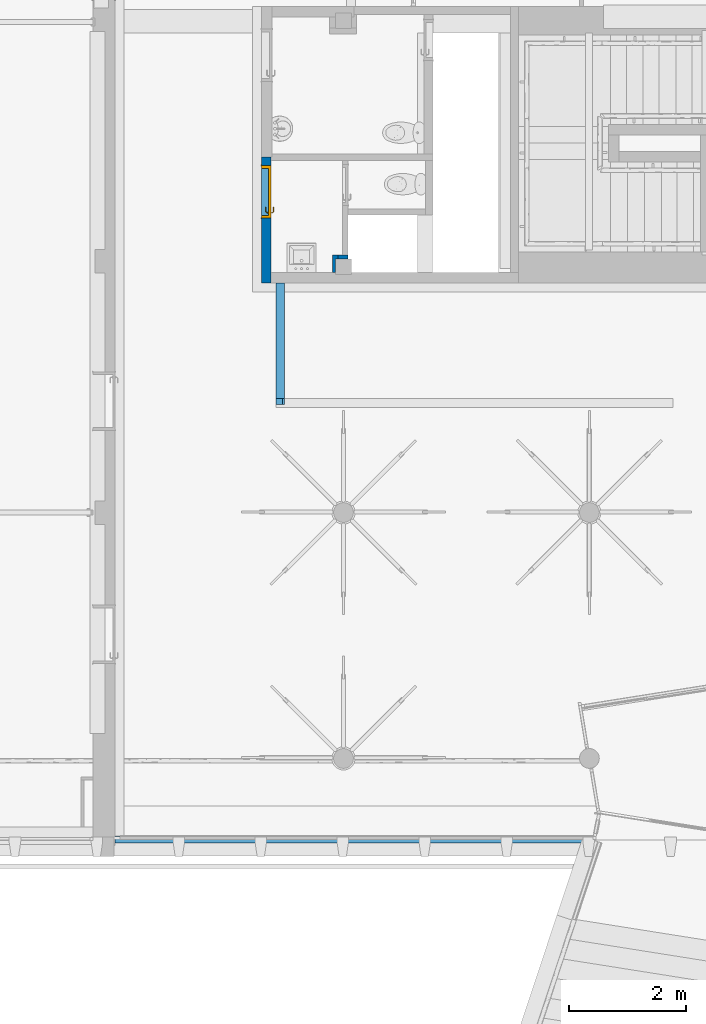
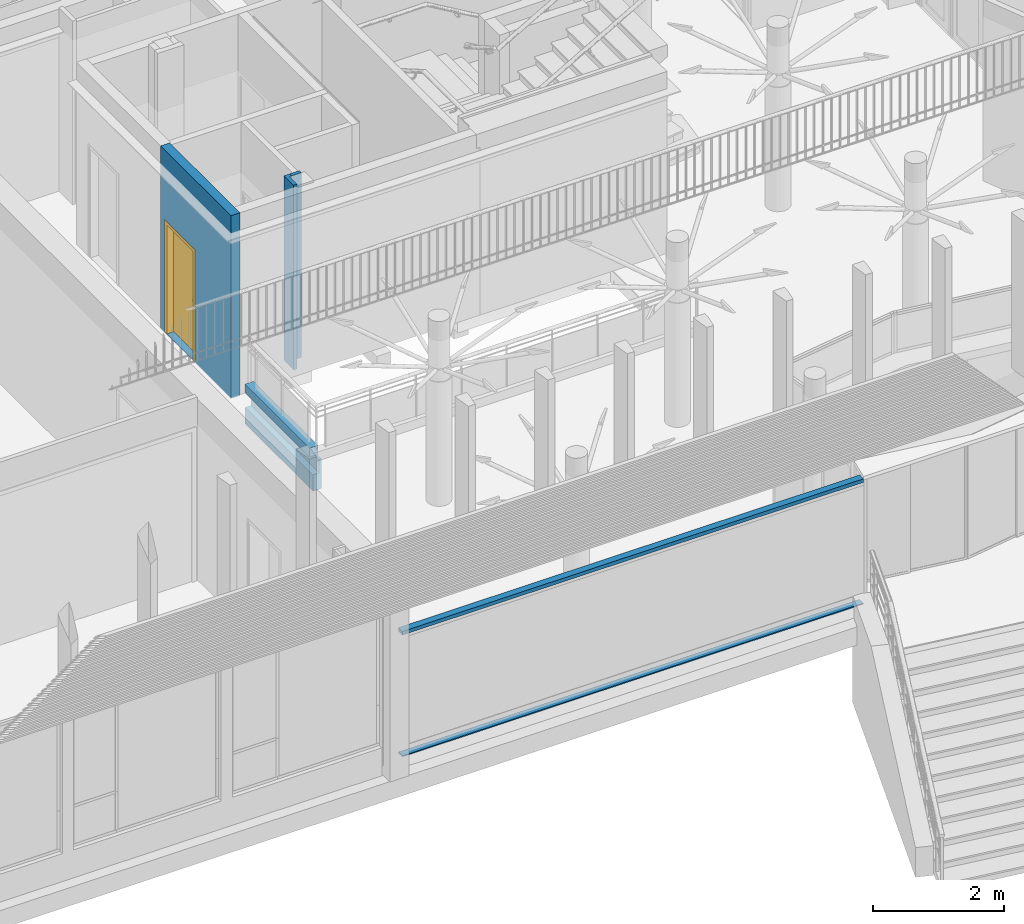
# One storey, part 34 of 65: 5 walls, 1 door, 4 openings.
"""IFC4 building model written with IfcOpenShell, lengths in metres."""

from ifc_helpers import new_model, entity, si_unit, converted_unit, derived_unit, direction, frame, origin, place, context, subcontext, project, spatial, indexed_curve, outline, extrude, polygons, source, transform, mapped, material, material_list, layer, layer_set, constituent, constituent_set, type_object, type_shapes, element, fill, save


model = new_model("IFC4")

# Units and contexts
model_context = context("Model", 3, precision=1e-05, world=origin(), true_north=direction((6.12303176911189e-17, 1.0)))
body_context = subcontext(model_context, "Body", "Model", "MODEL_VIEW")
ifc_project = project(units=[si_unit("LENGTHUNIT", "METRE"), si_unit("AREAUNIT", "SQUARE_METRE"), si_unit("VOLUMEUNIT", "CUBIC_METRE"), converted_unit("PLANEANGLEUNIT", "DEGREE", entity("IfcRatioMeasure", 0.0174532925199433), si_unit("PLANEANGLEUNIT", "RADIAN"), dimensions=[0, 0, 0, 0, 0, 0, 0]), si_unit("MASSUNIT", "GRAM", prefix="KILO"), derived_unit("MASSDENSITYUNIT", [(si_unit("MASSUNIT", "GRAM", prefix="KILO"), 1), (si_unit("LENGTHUNIT", "METRE"), -3)]), derived_unit("MOMENTOFINERTIAUNIT", [(si_unit("LENGTHUNIT", "METRE"), 4)]), si_unit("TIMEUNIT", "SECOND"), si_unit("FREQUENCYUNIT", "HERTZ"), si_unit("THERMODYNAMICTEMPERATUREUNIT", "DEGREE_CELSIUS"), derived_unit("THERMALTRANSMITTANCEUNIT", [(si_unit("MASSUNIT", "GRAM", prefix="KILO"), 1), (si_unit("THERMODYNAMICTEMPERATUREUNIT", "KELVIN"), -1), (si_unit("TIMEUNIT", "SECOND"), -3)]), derived_unit("VOLUMETRICFLOWRATEUNIT", [(si_unit("LENGTHUNIT", "METRE"), 3), (si_unit("TIMEUNIT", "SECOND"), -1)]), si_unit("ELECTRICCURRENTUNIT", "AMPERE"), si_unit("ELECTRICVOLTAGEUNIT", "VOLT"), si_unit("POWERUNIT", "WATT"), si_unit("FORCEUNIT", "NEWTON", prefix="KILO"), si_unit("ILLUMINANCEUNIT", "LUX"), si_unit("LUMINOUSFLUXUNIT", "LUMEN"), si_unit("LUMINOUSINTENSITYUNIT", "CANDELA"), derived_unit("USERDEFINED", [(si_unit("MASSUNIT", "GRAM", prefix="KILO"), -1), (si_unit("LENGTHUNIT", "METRE"), -2), (si_unit("TIMEUNIT", "SECOND"), 3), (si_unit("LUMINOUSFLUXUNIT", "LUMEN"), 1)]), derived_unit("LINEARVELOCITYUNIT", [(si_unit("LENGTHUNIT", "METRE"), 1), (si_unit("TIMEUNIT", "SECOND"), -1)]), si_unit("PRESSUREUNIT", "PASCAL"), derived_unit("USERDEFINED", [(si_unit("LENGTHUNIT", "METRE"), -2), (si_unit("MASSUNIT", "GRAM", prefix="KILO"), 1), (si_unit("TIMEUNIT", "SECOND"), -2)]), derived_unit("LINEARFORCEUNIT", [(si_unit("MASSUNIT", "GRAM", prefix="KILO"), 1), (si_unit("LENGTHUNIT", "METRE"), 1), (si_unit("TIMEUNIT", "SECOND"), -2), (si_unit("LENGTHUNIT", "METRE"), -1)]), derived_unit("PLANARFORCEUNIT", [(si_unit("MASSUNIT", "GRAM", prefix="KILO"), 1), (si_unit("LENGTHUNIT", "METRE"), 1), (si_unit("TIMEUNIT", "SECOND"), -2), (si_unit("LENGTHUNIT", "METRE"), -2)])], contexts=[model_context])

# Site, building, storey
site_placement = place(None, origin())
site = spatial("IfcSite", under=ifc_project, at=site_placement, Name="Default", CompositionType="ELEMENT")
building_placement = place(site_placement, origin())
building = spatial("IfcBuilding", under=site, at=building_placement, Name="HOTEL CONSULAIRE BOULOGNE SUR MER", CompositionType="ELEMENT")
storey_placement = place(building_placement, origin())
storey = spatial("IfcBuildingStorey", under=building, at=storey_placement, Name="Niveau 0", CompositionType="ELEMENT", Elevation=1.31981936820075e-13)

# Wall, opening, door
ifc_material_1 = material(Name="Mur par défaut", Category="Divers")
ifc_layer_1 = layer(ifc_material_1, 0.16, Name="Mur par défaut", Category="Divers")
ifc_layer_set_1 = layer_set([ifc_layer_1], Name="Mur de base:Générique - Int.160")
wall_type_1 = type_object("IfcWallType", Name="Mur de base:Générique - Int.160", PredefinedType="NOTDEFINED", material=ifc_layer_set_1)
wall_1_placement = place(storey_placement, frame((-2.54935158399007, -20.0949143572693, -0.0200000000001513), z_axis=(0.0, 0.0, 1.0), x_axis=(0.0, 1.0, 0.0)))
wall_1 = element("IfcWall", 1, at=wall_1_placement, inside=storey, type_object=wall_type_1, material=ifc_layer_set_1, Name="Mur de base:Générique - Int.160", ObjectType="Mur de base:Générique - Int.160", PredefinedType="NOTDEFINED", context=body_context, shape_type="Tessellation", body=[
    polygons([(0.0, -0.0799999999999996, -2.15727435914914e-16), (2.09235410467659, -0.0799999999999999, -2.15727435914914e-16), (2.14985410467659, -0.0799999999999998, -2.15727435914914e-16), (2.14985410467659, -0.0799999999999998, 3.40652697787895), (0.0, -0.0799999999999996, 3.40652697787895), (0.0, -0.0799999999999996, 0.0199999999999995), (2.00685410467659, -0.0799999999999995, 2.095), (2.00685410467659, -0.0799999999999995, 0.0199999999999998), (1.10685410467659, -0.0799999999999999, 0.0199999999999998), (1.10685410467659, -0.0799999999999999, 2.095), (2.14985410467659, 0.0800000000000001, -2.15727435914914e-16), (0.0, 0.0800000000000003, -2.15727435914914e-16), (0.0, 0.0800000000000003, 3.40652697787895), (2.14985410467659, 0.0800000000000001, 3.40652697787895), (2.00685410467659, 0.0800000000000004, 0.0199999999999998), (2.00685410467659, 0.0800000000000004, 2.095), (1.10685410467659, 0.08, 2.095), (1.10685410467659, 0.08, 0.0199999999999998)], [[[6, 1, 2, 3, 4, 5], [9, 10, 7, 8]], [[11, 12, 13, 14], [16, 17, 18, 15]], [[2, 1, 12, 11, 3]], [[16, 7, 10, 17]], [[4, 3, 11, 14]], [[17, 10, 9, 18]], [[13, 12, 1, 6, 5]], [[15, 8, 7, 16]], [[15, 18, 9, 8]], [[13, 5, 4, 14]]], closed=True),
])
opening_1_placement = place(wall_1_placement, frame((2.00685410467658, 0.0799999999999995, 0.0200000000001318)))
opening_1 = element("IfcOpeningElement", 2, at=opening_1_placement, cuts=wall_1, Name="Int. Simple:PP (0.83m x 2.04m):1", ObjectType="Opening", PredefinedType="OPENING", context=body_context, shape_type="SweptSolid", body=[
    extrude(outline(indexed_curve([(0.0, 1.08286712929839e-15), (2.075, 1.08286712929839e-15), (2.075, 0.9), (0.0, 0.9), (0.0, 1.08286712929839e-15)], self_intersect=False)), frame((0.0, 0.0, 0.0), z_axis=(0.0, -1.0, 0.0), x_axis=(0.0, 0.0, 1.0)), (0.0, 0.0, 1.0), 0.16),
])
ifc_material_2 = material(Name="Finition Peinture - Blanc satiné", Category="Peinture")
ifc_constituent_1 = constituent(ifc_material_2, Name="Finition Peinture - Blanc satiné", Category="Matériaux")
ifc_material_3 = material(Name="Bois - Panneau de porte", Category="Bois")
ifc_constituent_2 = constituent(ifc_material_3, Name="Bois - Panneau de porte", Category="Matériaux")
ifc_material_4 = material(Name="Bois - Cadre de porte", Category="Bois")
ifc_constituent_3 = constituent(ifc_material_4, Name="Bois - Cadre de porte", Category="Matériaux")
ifc_constituent_set = constituent_set(constituents=[ifc_constituent_1, ifc_constituent_2, ifc_constituent_3], Name="MaterialConstituentSet")
ifc_material_list = material_list([ifc_material_4, ifc_material_3, ifc_material_2, ifc_material_4])
door_type = type_object("IfcDoorType", Name="Int. Simple:PP (0.83m x 2.04m)", OperationType="NOTDEFINED", PredefinedType="DOOR", material=ifc_material_list)
shared_shape = source(origin(), body_context, "Body", "Tessellation", [
    polygons([(0.0750000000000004, -0.00500000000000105, 0.870000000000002), (0.0846472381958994, -0.00500000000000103, 0.866003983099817), (0.0950000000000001, -0.00500000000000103, 0.86464101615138), (0.105352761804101, -0.00500000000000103, 0.866003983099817), (0.115, -0.00500000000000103, 0.870000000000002), (0.114999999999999, -0.00500000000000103, 1.08), (0.1053527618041, -0.00500000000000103, 1.08399601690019), (0.094999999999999, -0.00500000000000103, 1.08535898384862), (0.0846472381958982, -0.00500000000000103, 1.08399601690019), (0.0749999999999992, -0.00500000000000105, 1.08), (0.0749999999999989, -1.06594733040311e-15, 0.870000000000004), (0.0749999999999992, -1.06594733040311e-15, 1.08), (0.0846472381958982, -1.04902753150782e-15, 1.08399601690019), (0.094999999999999, -1.04902753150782e-15, 1.08535898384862), (0.1053527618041, -1.04902753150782e-15, 1.08399601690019), (0.114999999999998, -1.04902753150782e-15, 1.08), (0.115, -1.04902753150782e-15, 0.870000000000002), (0.105352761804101, -1.04902753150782e-15, 0.866003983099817), (0.0950000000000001, -1.04902753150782e-15, 0.86464101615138), (0.0846472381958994, -1.04902753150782e-15, 0.866003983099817)], [[[4, 5, 6, 7, 8, 9, 10, 1, 2, 3]], [[15, 16, 17, 18, 19, 20, 11, 12, 13, 14]], [[11, 20, 2, 1]], [[2, 20, 19, 3]], [[19, 18, 4, 3]], [[18, 17, 5, 4]], [[6, 5, 17, 16]], [[16, 15, 7, 6]], [[7, 15, 14, 8]], [[14, 13, 9, 8]], [[13, 12, 10, 9]], [[1, 10, 12, 11]]], closed=True),
    polygons([(0.114999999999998, 0.0399999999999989, 1.08), (0.105352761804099, 0.0399999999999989, 1.08399601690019), (0.0949999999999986, 0.0399999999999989, 1.08535898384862), (0.084647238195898, 0.0399999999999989, 1.08399601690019), (0.0749999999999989, 0.0399999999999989, 1.08), (0.0750000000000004, 0.0399999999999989, 0.870000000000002), (0.0846472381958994, 0.0399999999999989, 0.866003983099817), (0.0950000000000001, 0.0399999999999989, 0.86464101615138), (0.105352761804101, 0.0399999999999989, 0.866003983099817), (0.115, 0.0399999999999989, 0.870000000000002), (0.114999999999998, 0.044999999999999, 1.08), (0.115, 0.044999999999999, 0.870000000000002), (0.105352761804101, 0.0449999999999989, 0.866003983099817), (0.0950000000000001, 0.0449999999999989, 0.86464101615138), (0.0846472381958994, 0.0449999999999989, 0.866003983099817), (0.0749999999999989, 0.0449999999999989, 0.870000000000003), (0.0749999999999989, 0.0449999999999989, 1.08), (0.084647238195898, 0.0449999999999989, 1.08399601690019), (0.0949999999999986, 0.0449999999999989, 1.08535898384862), (0.105352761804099, 0.0449999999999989, 1.08399601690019)], [[[9, 10, 1, 2, 3, 4, 5, 6, 7, 8]], [[20, 11, 12, 13, 14, 15, 16, 17, 18, 19]], [[11, 20, 2, 1]], [[2, 20, 19, 3]], [[19, 18, 4, 3]], [[18, 17, 5, 4]], [[6, 5, 17, 16]], [[16, 15, 7, 6]], [[7, 15, 14, 8]], [[14, 13, 9, 8]], [[13, 12, 10, 9]], [[1, 10, 12, 11]]], closed=True),
    polygons([(0.0889999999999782, -0.00500000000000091, 1.007), (0.0929747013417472, -0.00500000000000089, 1.00778044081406), (0.0970252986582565, -0.00500000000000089, 1.00778044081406), (0.101000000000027, -0.00500000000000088, 1.00699999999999), (0.101000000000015, -0.00500000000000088, 0.993000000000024), (0.0970252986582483, -0.00500000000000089, 0.992219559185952), (0.0929747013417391, -0.00500000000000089, 0.99221955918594), (0.0889999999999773, -0.00500000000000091, 0.992999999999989), (0.0889999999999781, -0.0326509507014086, 1.007), (0.092974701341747, -0.0310045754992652, 1.00778044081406), (0.0970252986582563, -0.0293267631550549, 1.00778044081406), (0.101000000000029, -0.0276803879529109, 1.007), (0.101000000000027, -0.0276803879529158, 0.993000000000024), (0.0970252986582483, -0.0293267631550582, 0.992219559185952), (0.0929747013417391, -0.0310045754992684, 0.99221955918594), (0.0889999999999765, -0.0326509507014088, 0.992999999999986), (0.107377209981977, -0.051028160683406, 1.007), (0.10902358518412, -0.0470534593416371, 1.00778044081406), (0.110701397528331, -0.0430028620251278, 1.00778044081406), (0.112347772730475, -0.0390281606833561, 1.007), (0.112347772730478, -0.0390281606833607, 0.993000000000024), (0.110701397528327, -0.0430028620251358, 0.992219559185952), (0.109023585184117, -0.0470534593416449, 0.99221955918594), (0.107377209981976, -0.0510281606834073, 0.992999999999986), (0.195018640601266, -0.0510281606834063, 1.00699999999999), (0.195018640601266, -0.051028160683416, 0.992999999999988), (0.195018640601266, -0.0470534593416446, 0.99221955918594), (0.195018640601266, -0.0430028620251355, 0.992219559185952), (0.195018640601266, -0.0390281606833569, 0.993000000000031), (0.195018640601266, -0.0390281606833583, 1.007), (0.195018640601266, -0.0430028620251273, 1.00778044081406), (0.195018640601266, -0.0470534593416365, 1.00778044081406), (0.147307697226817, -0.0510281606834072, 1.007), (0.152860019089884, -0.045028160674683, 1.0078786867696), (0.15368320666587, -0.039028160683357, 1.007), (0.147307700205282, -0.0510281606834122, 0.992999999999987), (0.152860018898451, -0.0450281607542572, 0.992121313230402), (0.153683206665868, -0.0390281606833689, 0.993000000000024)], [[[2, 3, 4, 5, 6, 7, 8, 1]], [[21, 20, 35, 30, 29, 38]], [[9, 10, 2, 1]], [[10, 18, 19, 11, 3, 2]], [[11, 12, 4, 3]], [[5, 4, 12, 13]], [[26, 27, 28, 29, 30, 31, 32, 25]], [[13, 14, 6, 5]], [[14, 22, 23, 15, 7, 6]], [[15, 16, 8, 7]], [[1, 8, 16, 9]], [[17, 18, 10, 9]], [[19, 20, 12, 11]], [[13, 12, 20, 21]], [[21, 22, 14, 13]], [[23, 24, 16, 15]], [[9, 16, 24, 17]], [[33, 32, 34]], [[25, 32, 33]], [[18, 17, 33]], [[34, 35, 19]], [[20, 19, 35]], [[35, 31, 30]], [[32, 31, 34]], [[31, 35, 34]], [[18, 33, 34]], [[18, 34, 19]], [[38, 28, 37]], [[36, 37, 27]], [[21, 38, 22]], [[38, 29, 28]], [[26, 36, 27]], [[24, 23, 36]], [[36, 23, 37]], [[23, 22, 37]], [[22, 38, 37]], [[27, 37, 28]], [[17, 24, 36, 26, 25, 33]]], closed=True),
    polygons([(0.10100000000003, 0.0449999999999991, 0.993000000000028), (0.101000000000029, 0.0449999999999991, 1.007), (0.0970252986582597, 0.0449999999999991, 1.00778044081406), (0.0929747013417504, 0.0449999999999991, 1.00778044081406), (0.0889999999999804, 0.0449999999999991, 1.007), (0.0889999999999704, 0.0449999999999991, 0.992999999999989), (0.0929747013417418, 0.0449999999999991, 0.99221955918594), (0.0970252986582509, 0.0449999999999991, 0.992219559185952), (0.10100000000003, 0.067485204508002, 0.993000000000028), (0.10100000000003, 0.0674852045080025, 1.007), (0.0970252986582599, 0.0691315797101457, 1.00778044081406), (0.0929747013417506, 0.070809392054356, 1.00778044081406), (0.0889999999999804, 0.0724557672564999, 1.007), (0.0889999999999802, 0.0724557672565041, 0.992999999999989), (0.0929747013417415, 0.0708093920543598, 0.99221955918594), (0.0970252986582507, 0.0691315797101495, 0.992219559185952), (0.112485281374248, 0.0789704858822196, 0.993000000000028), (0.112485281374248, 0.0789704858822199, 1.007), (0.110838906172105, 0.0829451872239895, 1.00778044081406), (0.109161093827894, 0.0869957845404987, 1.00778044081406), (0.107514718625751, 0.090970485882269, 1.007), (0.107514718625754, 0.090970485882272, 0.992999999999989), (0.109161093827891, 0.0869957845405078, 0.99221955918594), (0.110838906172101, 0.0829451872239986, 0.992219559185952), (0.195045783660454, 0.0789704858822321, 0.993000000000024), (0.195045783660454, 0.0829451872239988, 0.992219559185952), (0.195045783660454, 0.086995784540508, 0.99221955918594), (0.195045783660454, 0.0909704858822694, 0.992999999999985), (0.195045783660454, 0.0909704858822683, 1.007), (0.195045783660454, 0.0869957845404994, 1.00778044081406), (0.195045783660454, 0.0829451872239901, 1.00778044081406), (0.195045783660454, 0.0789704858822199, 1.007), (0.147445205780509, 0.0909704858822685, 1.007), (0.152942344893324, 0.0849704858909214, 1.0078786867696), (0.153765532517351, 0.0789704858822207, 1.007), (0.147445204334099, 0.0909704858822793, 0.992999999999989), (0.152942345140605, 0.0849704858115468, 0.992121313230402), (0.153765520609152, 0.0789704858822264, 0.993000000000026)], [[[4, 5, 6, 7, 8, 1, 2, 3]], [[18, 17, 38, 25, 32, 35]], [[2, 1, 9, 10]], [[25, 26, 27, 28, 29, 30, 31, 32]], [[10, 11, 3, 2]], [[11, 19, 20, 12, 4, 3]], [[12, 13, 5, 4]], [[6, 5, 13, 14]], [[14, 15, 7, 6]], [[15, 23, 24, 16, 8, 7]], [[16, 9, 1, 8]], [[10, 9, 17, 18]], [[18, 19, 11, 10]], [[20, 21, 13, 12]], [[14, 13, 21, 22]], [[22, 23, 15, 14]], [[24, 17, 9, 16]], [[35, 31, 34]], [[33, 34, 30]], [[18, 35, 19]], [[35, 32, 31]], [[29, 33, 30]], [[21, 20, 33]], [[33, 20, 34]], [[20, 19, 34]], [[19, 35, 34]], [[30, 34, 31]], [[21, 33, 29, 28, 36, 22]], [[36, 27, 37]], [[28, 27, 36]], [[23, 22, 36]], [[37, 38, 24]], [[17, 24, 38]], [[38, 26, 25]], [[27, 26, 37]], [[26, 38, 37]], [[23, 36, 37]], [[23, 37, 24]]], closed=True),
    polygons([(0.034999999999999, 0.04, 2.04), (0.865, 0.04, 2.04), (0.864999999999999, 0.04, 0.0), (0.034999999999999, 0.04, 0.0), (0.034999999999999, 5.07593966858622e-17, 2.04), (0.034999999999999, 5.07593966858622e-17, 0.0), (0.864999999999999, 5.07593966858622e-17, 0.0), (0.865, 5.07593966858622e-17, 2.04)], [[[4, 1, 2, 3]], [[7, 8, 5, 6]], [[2, 1, 5, 8]], [[3, 2, 8, 7]], [[4, 3, 7, 6]], [[1, 4, 6, 5]]], closed=True),
    polygons([(-1.54308565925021e-14, 1.69197988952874e-17, 0.0), (-1.54308565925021e-14, 0.160000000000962, 0.0), (0.0499999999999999, 0.160000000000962, 0.0), (0.0499999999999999, 0.0400000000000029, 0.0), (0.0349999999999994, 0.0400000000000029, 0.0), (0.0349999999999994, 1.69197988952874e-17, 0.0), (-1.53631773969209e-14, 1.69197988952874e-17, 2.07500000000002), (-1.53631773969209e-14, 0.160000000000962, 2.07500000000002), (0.900000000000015, 0.160000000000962, 2.07500000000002), (0.900000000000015, 0.160000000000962, 9.23443718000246e-25), (0.85, 0.160000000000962, 6.02669015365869e-24), (0.85, 0.160000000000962, 2.025), (0.05, 0.160000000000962, 2.025), (0.05, 0.0400000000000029, 2.025), (0.85, 0.0400000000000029, 2.025), (0.85, 0.0400000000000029, 1.99209609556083e-25), (0.865, 0.0400000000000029, 1.51399294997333e-24), (0.865000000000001, 0.0400000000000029, 2.04), (0.0349999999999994, 0.0400000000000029, 2.04), (0.0349999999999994, 1.69197988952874e-17, 2.04), (0.865, 1.69197988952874e-17, 2.04), (0.865, 1.69197988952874e-17, 3.40121094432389e-24), (0.900000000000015, 1.69197988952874e-17, 1.81925185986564e-24), (0.900000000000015, 1.69197988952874e-17, 2.07500000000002)], [[[5, 6, 1, 2, 3, 4]], [[11, 10, 23, 22, 17, 16]], [[14, 13, 12, 15]], [[20, 19, 18, 21]], [[2, 1, 7, 8]], [[15, 12, 11, 16]], [[21, 18, 17, 22]], [[3, 2, 8, 9, 10, 11, 12, 13]], [[4, 3, 13, 14]], [[6, 5, 19, 20]], [[9, 24, 23, 10]], [[16, 17, 18, 19, 5, 4, 14, 15]], [[22, 23, 24, 7, 1, 6, 20, 21]], [[8, 7, 24, 9]]], closed=True),
    polygons([(0.0149999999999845, 0.160000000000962, 1.35358391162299e-16), (-0.0150000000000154, 0.160000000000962, 1.35358391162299e-16), (-0.0150000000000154, 0.165000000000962, 1.35358391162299e-16), (0.0149999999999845, 0.165000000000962, 1.35358391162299e-16), (0.0149999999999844, 0.160000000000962, 2.06000000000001), (0.884999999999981, 0.160000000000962, 2.06000000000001), (0.88499999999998, 0.160000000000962, 5.09144897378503e-24), (0.91499999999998, 0.160000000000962, -5.44393448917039e-24), (0.91499999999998, 0.160000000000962, 2.09000000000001), (-0.0150000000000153, 0.160000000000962, 2.09000000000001), (-0.0150000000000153, 0.165000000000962, 2.09000000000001), (0.91499999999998, 0.165000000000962, 2.09000000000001), (0.91499999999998, 0.165000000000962, 5.03766794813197e-24), (0.88499999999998, 0.165000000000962, -1.89153776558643e-24), (0.88499999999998, 0.165000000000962, 2.06000000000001), (0.0149999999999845, 0.165000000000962, 2.06000000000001)], [[[1, 2, 3, 4]], [[14, 13, 8, 7]], [[5, 16, 15, 6]], [[7, 8, 9, 10, 2, 1, 5, 6]], [[3, 2, 10, 11]], [[6, 15, 14, 7]], [[4, 3, 11, 12, 13, 14, 15, 16]], [[1, 4, 16, 5]], [[12, 9, 8, 13]], [[11, 10, 9, 12]]], closed=True),
    polygons([(0.88499999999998, -0.00499999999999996, -1.35358391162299e-16), (0.88499999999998, 1.69197988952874e-17, -1.35358391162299e-16), (0.91499999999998, 1.69197988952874e-17, -1.35358391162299e-16), (0.91499999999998, -0.00499999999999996, -1.35358391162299e-16), (0.0149999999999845, -0.00499999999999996, 1.35358391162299e-16), (-0.0150000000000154, -0.00499999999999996, 1.35358391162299e-16), (-0.0150000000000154, 1.69197988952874e-17, 1.35358391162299e-16), (0.0149999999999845, 1.69197988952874e-17, 1.35358391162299e-16), (0.0149999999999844, -0.00499999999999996, 2.06000000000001), (0.884999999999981, -0.00499999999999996, 2.06000000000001), (0.91499999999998, -0.00499999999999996, 2.09000000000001), (-0.0150000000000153, -0.00499999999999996, 2.09000000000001), (-0.0150000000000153, 1.69197988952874e-17, 2.09000000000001), (0.91499999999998, 1.69197988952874e-17, 2.09000000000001), (0.88499999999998, 1.69197988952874e-17, 2.06000000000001), (0.0149999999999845, 1.69197988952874e-17, 2.06000000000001)], [[[2, 3, 4, 1]], [[5, 6, 7, 8]], [[9, 16, 15, 10]], [[1, 4, 11, 12, 6, 5, 9, 10]], [[7, 6, 12, 13]], [[10, 15, 2, 1]], [[8, 7, 13, 14, 3, 2, 15, 16]], [[5, 8, 16, 9]], [[14, 11, 4, 3]], [[13, 12, 11, 14]]], closed=True),
])
type_shapes(door_type, [shared_shape])
door_placement = place(opening_1_placement, frame((-0.899999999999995, -0.160000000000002, 0.0)))
door = element("IfcDoor", 3, at=door_placement, inside=storey, type_object=door_type, material=ifc_constituent_set, Name="Int. Simple:PP (0.83m x 2.04m)", ObjectType="Int. Simple:PP (0.83m x 2.04m)", OperationType="NOTDEFINED", OverallHeight=2.075, OverallWidth=0.899999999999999, PredefinedType="DOOR", context=body_context, shape_type="MappedRepresentation", body=[
    mapped(shared_shape, transform((0.0, 0.0, 0.0), scale=1.0)),
])
fill(opening_1, door)

# Walls
ifc_layer_2 = layer(ifc_material_1, 0.1, Name="Mur par défaut", Category="Divers")
ifc_layer_set_2 = layer_set([ifc_layer_2], Name="Mur de base:Générique - Int. 100 mm")
wall_type_2 = type_object("IfcWallType", Name="Mur de base:Générique - Int. 100 mm", PredefinedType="NOTDEFINED", material=ifc_layer_set_2)
wall_2_placement = place(storey_placement, frame((-1.37056993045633, -19.9149143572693, -0.0200000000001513), z_axis=(0.0, 0.0, 1.0), x_axis=(0.0, 1.0, 0.0)))
element("IfcWall", 4, at=wall_2_placement, inside=storey, type_object=wall_type_2, material=ifc_layer_set_2, Name="Mur de base:Générique - Int. 100 mm", ObjectType="Mur de base:Générique - Int. 100 mm", PredefinedType="NOTDEFINED", context=body_context, shape_type="Tessellation", body=[
    polygons([(0.295000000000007, -0.05, -2.15727435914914e-16), (0.295000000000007, -0.05, 3.44152697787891), (0.234004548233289, -0.0500000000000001, 3.44152697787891), (0.234004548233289, -0.0500000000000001, -2.15727435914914e-16), (0.295000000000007, 0.05, -2.15727435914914e-16), (0.0, 0.05, -2.15727435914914e-16), (0.0, 0.05, 3.44152697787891), (0.295000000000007, 0.05, 3.44152697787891), (0.234004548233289, -0.0067467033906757, -2.15727435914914e-16), (-4.33146851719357e-15, -0.00674670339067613, -2.15727435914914e-16), (-4.33146851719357e-15, -0.00674670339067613, 3.44152697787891), (0.234004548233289, -0.0067467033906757, 3.44152697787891), (0.0, -0.00674670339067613, 0.0199999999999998)], [[[3, 4, 1, 2]], [[13, 10, 9, 12, 11]], [[8, 5, 6, 7]], [[9, 10, 6, 5, 1, 4]], [[12, 3, 2, 8, 7, 11]], [[2, 1, 5, 8]], [[9, 4, 3, 12]], [[7, 6, 10, 13, 11]]], closed=True),
])
wall_3_placement = place(storey_placement, frame((-1.32056993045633, -19.6699143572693, -0.0200000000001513)))
element("IfcWall", 5, at=wall_3_placement, inside=storey, type_object=wall_type_2, material=ifc_layer_set_2, Name="Mur de base:Générique - Int. 100 mm", ObjectType="Mur de base:Générique - Int. 100 mm", PredefinedType="NOTDEFINED", context=body_context, shape_type="Tessellation", body=[
    polygons([(0.16822544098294, 0.0500000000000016, -2.15727435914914e-16), (0.0782254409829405, 0.0500000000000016, -2.15727435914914e-16), (0.0, 0.0500000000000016, -2.15727435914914e-16), (0.0, 0.0500000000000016, 3.44152697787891), (0.0782254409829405, 0.0500000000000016, 3.44152697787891), (0.16822544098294, 0.0500000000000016, 3.44152697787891), (0.16822544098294, -0.0109954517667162, -2.15727435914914e-16), (-2.70716782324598e-16, -0.0109954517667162, -2.15727435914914e-16), (-2.70716782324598e-16, -0.0109954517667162, 3.44152697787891), (0.16822544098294, -0.0109954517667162, 3.44152697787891)], [[[6, 1, 2, 3, 4, 5]], [[7, 8, 3, 2, 1]], [[9, 10, 6, 5, 4]], [[3, 8, 9, 4]], [[8, 7, 10, 9]], [[10, 7, 1, 6]]], closed=True),
])

# Wall, opening
ifc_layer_3 = layer(ifc_material_1, 0.15, Name="Mur par défaut", Category="Divers")
ifc_layer_set_3 = layer_set([ifc_layer_3], Name="Mur de base:Générique - Int. 150 mm")
wall_type_3 = type_object("IfcWallType", Name="Mur de base:Générique - Int. 150 mm", PredefinedType="NOTDEFINED", material=ifc_layer_set_3)
wall_4_placement = place(storey_placement, frame((-2.30849679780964, -22.1692190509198, -0.572436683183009), z_axis=(0.0, 0.0, 1.0), x_axis=(0.0, 1.0, 0.0)))
wall_4 = element("IfcWall", 6, at=wall_4_placement, inside=storey, type_object=wall_type_3, material=ifc_layer_set_3, Name="Mur de base:Générique - Int. 150 mm", ObjectType="Mur de base:Générique - Int. 150 mm", PredefinedType="NOTDEFINED", context=body_context, shape_type="Tessellation", body=[
    polygons([(0.0, -0.0749999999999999, 0.0), (2.0743046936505, -0.0749999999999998, 0.0), (2.0743046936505, -0.0749999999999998, 0.55243668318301), (0.101000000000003, -0.0749999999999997, 0.55243668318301), (0.0900000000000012, -0.0749999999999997, 0.55243668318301), (0.0, -0.0749999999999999, 0.55243668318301), (0.0, -0.0749999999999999, 0.302436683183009), (2.0743046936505, 0.0750000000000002, 0.0), (0.0, 0.0750000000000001, 0.0), (0.0, 0.0750000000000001, 0.302436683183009), (2.0743046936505, 0.0750000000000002, 0.30243668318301), (2.0743046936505, -0.0341452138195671, 0.302436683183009), (2.0743046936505, -0.0341452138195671, 0.55243668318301), (0.0, -0.0341452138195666, 0.552436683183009), (0.0, -0.0341452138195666, 0.30243668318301)], [[[7, 1, 2, 3, 4, 5, 6]], [[11, 8, 9, 10]], [[14, 13, 12, 15]], [[2, 1, 9, 8]], [[11, 12, 13, 3, 2, 8]], [[9, 1, 7, 6, 14, 15, 10]], [[15, 12, 11, 10]], [[4, 3, 13, 14, 6, 5]]], closed=True),
    polygons([(0.101000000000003, 0.0750000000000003, 0.739058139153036), (2.0743046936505, 0.0750000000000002, 0.739058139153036), (2.0743046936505, 0.0750000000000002, 0.572436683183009), (0.101000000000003, 0.0750000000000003, 0.572436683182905), (2.0743046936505, -0.0749999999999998, 0.739058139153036), (0.101000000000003, -0.0749999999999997, 0.739058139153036), (0.101000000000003, -0.0749999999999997, 0.572436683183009), (2.0743046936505, -0.0749999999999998, 0.572436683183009)], [[[2, 3, 4, 1]], [[6, 7, 8, 5]], [[8, 3, 2, 5]], [[6, 5, 2, 1]], [[4, 7, 6, 1]], [[3, 8, 7, 4]]], closed=True),
])
opening_2_placement = place(storey_placement, frame((-2.30849679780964, -22.1692190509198, -0.572436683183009), z_axis=(0.0, 0.0, 1.0), x_axis=(0.0, 1.0, 0.0)))
element("IfcOpeningElement", 7, at=opening_2_placement, cuts=wall_4, Name="Mur de base:Générique - Int. 150 mm:1", ObjectType="Opening", PredefinedType="OPENING", context=body_context, shape_type="SweptSolid", body=[
    extrude(outline(indexed_curve([(-0.622268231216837, -0.0136182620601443), (1.35103646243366, -0.0136182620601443), (1.35103646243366, 0.0272365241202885), (-0.72326823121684, 0.0272365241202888), (-0.72326823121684, -0.0136182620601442), (-0.633268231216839, -0.0136182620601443), (-0.622268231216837, -0.0136182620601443)], self_intersect=False)), frame((0.72326823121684, -0.0613817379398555, 0.552436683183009)), (0.0, 0.0, 1.0), 0.02),
])

# Wall, openings
ifc_layer_4 = layer(ifc_material_1, 0.12, Name="Mur par défaut", Category="Divers")
ifc_layer_set_4 = layer_set([ifc_layer_4], Name="Mur de base:Générique - Int.120")
wall_type_4 = type_object("IfcWallType", Name="Mur de base:Générique - Int.120", PredefinedType="NOTDEFINED", material=ifc_layer_set_4)
wall_5_placement = place(storey_placement, frame((2.99364088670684, -29.5980671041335, -0.0200000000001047), z_axis=(0.0, 0.0, 1.0), x_axis=(-1.0, 0.0, 0.0)))
wall_5 = element("IfcWall", 8, at=wall_5_placement, inside=storey, type_object=wall_type_4, material=ifc_layer_set_4, Name="Mur de base:Générique - Int.120", ObjectType="Mur de base:Générique - Int.120", PredefinedType="NOTDEFINED", context=body_context, shape_type="Tessellation", body=[
    polygons([(7.24348086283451e-17, -0.0599999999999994, 2.45337083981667e-16), (8.12341406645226, -0.0599999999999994, 2.45337083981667e-16), (8.12341406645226, -0.0599999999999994, 0.0200000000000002), (7.24348086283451e-17, -0.0599999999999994, 0.0200000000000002), (8.12341406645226, 0.0599999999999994, 2.45337083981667e-16), (7.61867230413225e-16, 0.0599999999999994, 0.0), (7.61867230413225e-16, 0.0599999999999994, 0.0200000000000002), (8.12341406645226, 0.0599999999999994, 0.0200000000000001)], [[[4, 1, 2, 3]], [[8, 5, 6, 7]], [[2, 1, 6, 5]], [[1, 4, 7, 6]], [[3, 2, 5, 8]], [[3, 8, 7, 4]]], closed=True),
    polygons([(8.12341406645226, 0.0599999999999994, 2.27), (7.61867230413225e-16, 0.0599999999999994, 2.27), (7.61867230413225e-16, 0.0599999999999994, 2.336), (8.12341406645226, 0.0599999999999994, 2.336), (8.12341406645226, -0.0599999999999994, 2.27), (8.12341406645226, -0.0599999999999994, 2.336), (7.24348086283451e-17, -0.0599999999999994, 2.27), (7.24348086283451e-17, -0.0599999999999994, 2.336)], [[[4, 1, 2, 3]], [[5, 1, 4, 6]], [[8, 7, 5, 6]], [[7, 8, 3, 2]], [[5, 7, 2, 1]], [[6, 4, 3, 8]]], closed=True),
])
opening_3_placement = place(wall_5_placement, frame((8.1426215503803, 0.212400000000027, 0.0200000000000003)))
element("IfcOpeningElement", 9, at=opening_3_placement, cuts=wall_5, Name="Mur de base:Générique - Int.120", ObjectType="Opening", PredefinedType="OPENING", context=body_context, shape_type="SweptSolid", body=[
    extrude(outline(indexed_curve([(-1.125, -4.11760374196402), (1.125, -4.11760374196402), (1.125, 4.11760374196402), (-1.125, 4.11760374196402), (-1.125, -4.11760374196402)], self_intersect=False)), frame((-4.11760374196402, -0.424800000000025, 1.125), z_axis=(0.0, 1.0, 0.0), x_axis=(0.0, 0.0, 1.0)), (0.0, 0.0, 1.0), 0.424799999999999),
])
opening_4_placement = place(wall_5_placement, frame((8.12341406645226, 0.212400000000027, 2.336)))
element("IfcOpeningElement", 10, at=opening_4_placement, cuts=wall_5, Name="Mur de base:Générique - Int.120", ObjectType="Opening", PredefinedType="OPENING", context=body_context, shape_type="SweptSolid", body=[
    extrude(outline(indexed_curve([(-0.371263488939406, -4.108), (0.371263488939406, -4.108), (0.371263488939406, 4.108), (-0.371263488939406, 4.108), (-0.371263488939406, -4.108)], self_intersect=False)), frame((-4.108, -0.424800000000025, 0.371263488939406), z_axis=(0.0, 1.0, 0.0), x_axis=(0.0, 0.0, 1.0)), (0.0, 0.0, 1.0), 0.424799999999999),
])

save(model, "model.ifc")
